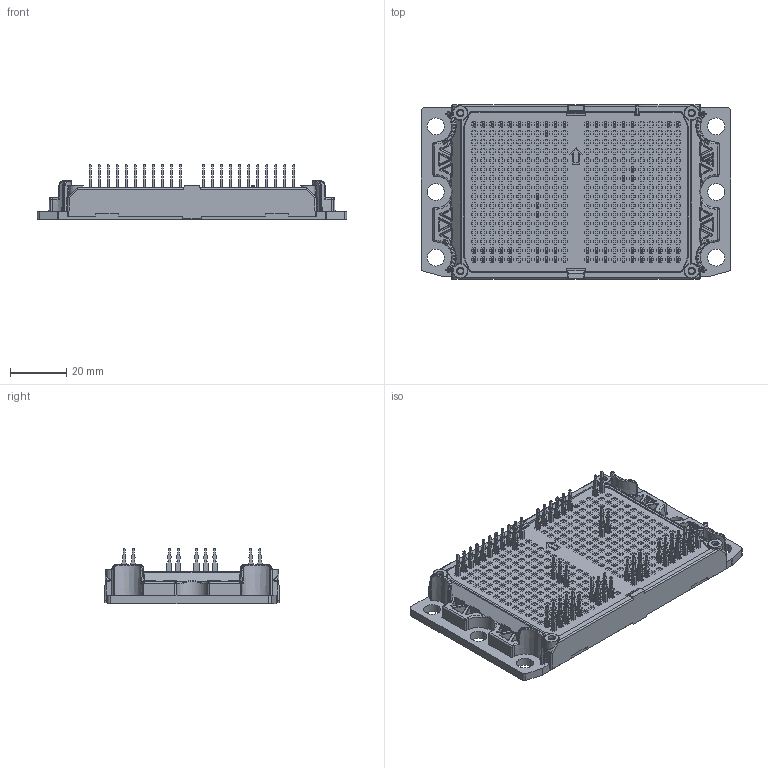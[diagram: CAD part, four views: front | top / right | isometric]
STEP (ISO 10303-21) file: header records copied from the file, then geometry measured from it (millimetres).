
FILE_DESCRIPTION(/* description */ ('Unknown'),/* implementation_level */ '2;1');
FILE_NAME(/* name */ 'FlowE3BP-4T15TB-PS50(600)-02-OL',/* time_stamp */ '2025-10-29T11:19:06+01:00',/* author */ ('Unknown'),/* organization */ ('Unknown'),/* preprocessor_version */ 'ST-DEVELOPER v20',/* originating_system */ 'Solid Edge',/* authorisation */ 'Unknown');
FILE_SCHEMA (('AUTOMOTIVE_DESIGN {1 0 10303 214 3 1 1}'));
Products named in the file (1): FlowE3BP-4T15TB-PS50-OL
Bounding box: 109.6 x 61.99 x 19.67 mm (x, y, z)
Volume: 59008.1 mm3; surface area: 39126.7 mm2
Topology: 1 solids, 1 shells, 8174 faces, 22946 edges, 15120 vertices
Faces by surface type: plane 6647, cylinder 880, bspline 308, cone 243, torus 68, sphere 28
Full cylindrical faces by diameter (mm): 2.6 x4, 3 x4, 6 x6
Entity records: 323235 total; most frequent: CARTESIAN_POINT 56384, ORIENTED_EDGE 45768, DIRECTION 40231, EDGE_CURVE 22884, LINE 18301, VECTOR 18301, VERTEX_POINT 15104, AXIS2_PLACEMENT_3D 10965
